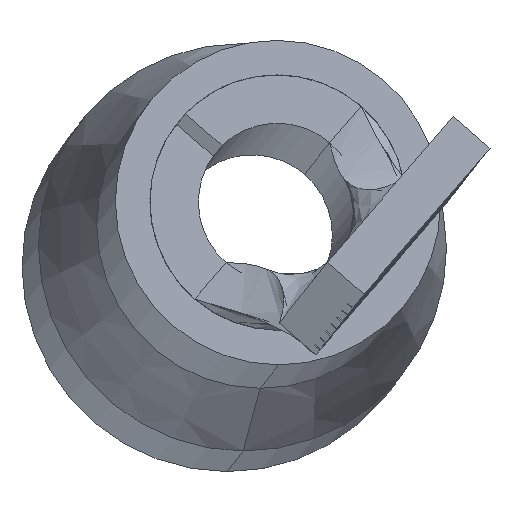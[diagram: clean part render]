
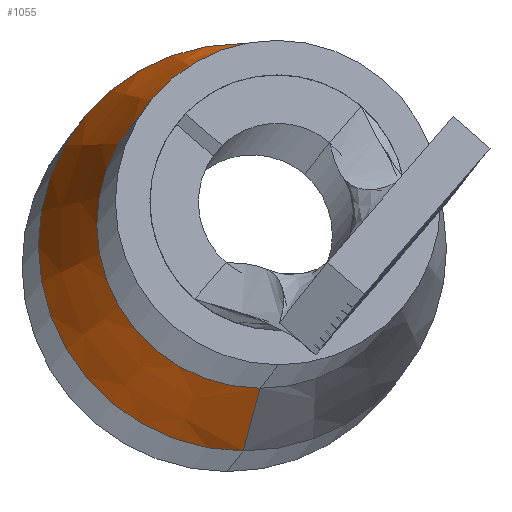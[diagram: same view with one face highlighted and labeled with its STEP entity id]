
A CAD part, front view. The second image highlights one B-rep face of the part: STEP entity #1055.
In plain terms, the highlighted conical face has half-angle 10.954 degrees and reference radius 2.35 mm.
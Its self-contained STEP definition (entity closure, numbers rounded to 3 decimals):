
#110 = CARTESIAN_POINT ( 'NONE',  ( 0., 3.4, -2.35 ) ) ;
#139 = DIRECTION ( 'NONE',  ( 0., 0., 1. ) ) ;
#201 = VECTOR ( 'NONE', #666, 1000. ) ;
#234 = AXIS2_PLACEMENT_3D ( 'NONE', #1690, #1886, #139 ) ;
#294 = FACE_OUTER_BOUND ( 'NONE', #808, .T. ) ;
#317 = EDGE_CURVE ( 'NONE', #2118, #427, #2348, .T. ) ;
#355 = LINE ( 'NONE', #1044, #2461 ) ;
#390 = EDGE_CURVE ( 'NONE', #2309, #427, #1749, .T. ) ;
#427 = VERTEX_POINT ( 'NONE', #2211 ) ;
#511 = CARTESIAN_POINT ( 'NONE',  ( 0., 3.4, 2.35 ) ) ;
#565 = VERTEX_POINT ( 'NONE', #511 ) ;
#612 = ORIENTED_EDGE ( 'NONE', *, *, #317, .T. ) ;
#666 = DIRECTION ( 'NONE',  ( 0., 0.982, -0.19 ) ) ;
#677 = CARTESIAN_POINT ( 'NONE',  ( 0., 3.4, 0. ) ) ;
#683 = ORIENTED_EDGE ( 'NONE', *, *, #1327, .T. ) ;
#792 = ORIENTED_EDGE ( 'NONE', *, *, #1675, .F. ) ;
#808 = EDGE_LOOP ( 'NONE', ( #1081, #792, #683, #612 ) ) ;
#838 = CARTESIAN_POINT ( 'NONE',  ( 0., 6.5, 0. ) ) ;
#866 = DIRECTION ( 'NONE',  ( 0., 0., -1. ) ) ;
#1032 = DIRECTION ( 'NONE',  ( 0., 0., -1. ) ) ;
#1044 = CARTESIAN_POINT ( 'NONE',  ( 0., 3.4, 2.35 ) ) ;
#1055 = ADVANCED_FACE ( 'NONE', ( #294 ), #1274, .T. ) ;
#1081 = ORIENTED_EDGE ( 'NONE', *, *, #390, .F. ) ;
#1274 = CONICAL_SURFACE ( 'NONE', #234, 2.35, 0.191 ) ;
#1327 = EDGE_CURVE ( 'NONE', #565, #2118, #355, .T. ) ;
#1434 = AXIS2_PLACEMENT_3D ( 'NONE', #838, #2191, #1032 ) ;
#1659 = CARTESIAN_POINT ( 'NONE',  ( 0., 3.4, -2.35 ) ) ;
#1675 = EDGE_CURVE ( 'NONE', #565, #2309, #2281, .T. ) ;
#1690 = CARTESIAN_POINT ( 'NONE',  ( 0., 3.4, 0. ) ) ;
#1749 = LINE ( 'NONE', #1659, #201 ) ;
#1886 = DIRECTION ( 'NONE',  ( 0., 1., 0. ) ) ;
#2019 = DIRECTION ( 'NONE',  ( 0., 0.982, 0.19 ) ) ;
#2035 = DIRECTION ( 'NONE',  ( 0., -1., 0. ) ) ;
#2118 = VERTEX_POINT ( 'NONE', #2124 ) ;
#2124 = CARTESIAN_POINT ( 'NONE',  ( 0., 6.5, 2.95 ) ) ;
#2191 = DIRECTION ( 'NONE',  ( 0., -1., 0. ) ) ;
#2211 = CARTESIAN_POINT ( 'NONE',  ( 0., 6.5, -2.95 ) ) ;
#2281 = CIRCLE ( 'NONE', #2314, 2.35 ) ;
#2309 = VERTEX_POINT ( 'NONE', #110 ) ;
#2314 = AXIS2_PLACEMENT_3D ( 'NONE', #677, #2035, #866 ) ;
#2348 = CIRCLE ( 'NONE', #1434, 2.95 ) ;
#2461 = VECTOR ( 'NONE', #2019, 1000. ) ;
